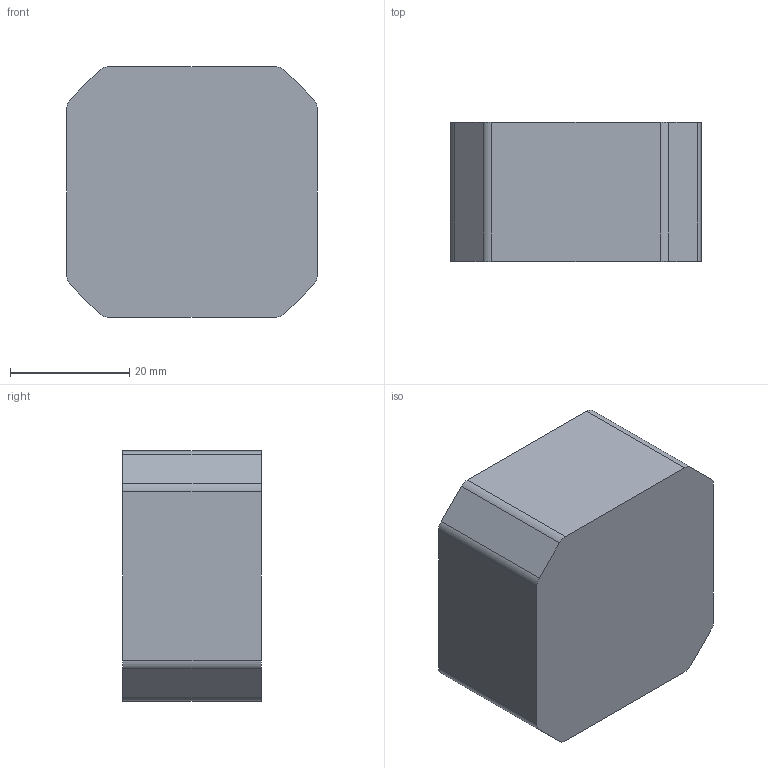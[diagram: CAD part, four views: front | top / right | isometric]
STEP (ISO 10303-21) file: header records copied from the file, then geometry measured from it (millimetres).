
FILE_DESCRIPTION(/* description */ ('STEP AP242','CAx-IF Rec.Pracs.---Representation and Presentation of Product Manufacturing Information (PMI)---4.0---2014-10-13','CAx-IF Rec.Pracs.---3D Tessellated Geometry---0.4---2014-09-14','2;1'),/* implementation_level */ '2;1');
FILE_NAME(/* name */ 'Arm Assembly - Nima 17 40x42x5mm (4)',/* time_stamp */ '2025-06-20T22:34:11Z',/* author */ (''),/* organization */ (''),/* preprocessor_version */ 'ST-DEVELOPER v20',/* originating_system */ 'ONSHAPE BY PTC INC, 1.199',/* authorisation */ ' ');
FILE_SCHEMA (('AP242_MANAGED_MODEL_BASED_3D_ENGINEERING_MIM_LF { 1 0 10303 442 1 1 4 }'));
Length unit declared in the file: metre
Products named in the file (1): Nima 17 40x42x5mm
Bounding box: 42 x 23.3 x 42 mm (x, y, z)
Volume: 39407.6 mm3; surface area: 6953.4 mm2
Topology: 1 solids, 1 shells, 18 faces, 48 edges, 32 vertices
Faces by surface type: plane 10, cylinder 8
Entity records: 590 total; most frequent: DIRECTION 102, CARTESIAN_POINT 99, ORIENTED_EDGE 96, EDGE_CURVE 48, AXIS2_PLACEMENT_3D 35, LINE 32, VECTOR 32, VERTEX_POINT 32
